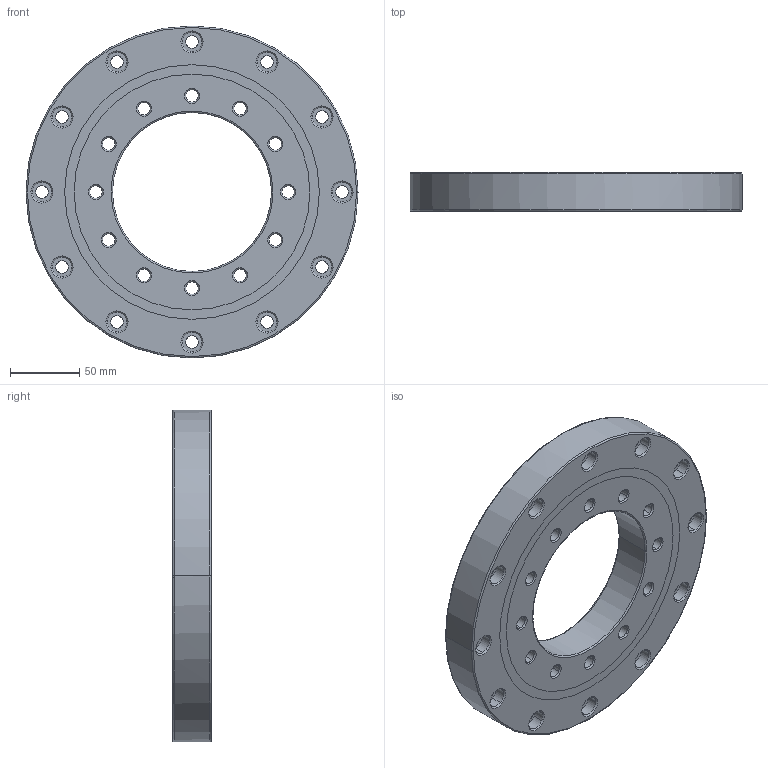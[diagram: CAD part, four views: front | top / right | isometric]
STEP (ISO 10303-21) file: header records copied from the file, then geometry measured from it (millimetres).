
FILE_DESCRIPTION(('no description'),'unknown implementation level');
FILE_NAME('CRBE11528C_62.stp',' ',('HIWIN GmbH'),('CADClick - KiM GmbH - www.kimweb.de'),'unknown preprocess','ACIS','unknown authorization');
FILE_SCHEMA(('automotive_design'));
Length unit declared in the file: millimetre
Products named in the file (4): CRBE11528C_1; CRBE11528C_2; CRBE11528C_3; CRBE11528C
Bounding box: 240 x 28 x 240 mm (x, y, z)
Volume: 811063.9 mm3; surface area: 160867.9 mm2
Topology: 4 solids, 4 shells, 336 faces, 808 edges, 504 vertices
Faces by surface type: cone 176, cylinder 112, plane 32, torus 16
Entity records: 19393 total; most frequent: DIRECTION 2008, STYLED_ITEM 1652, PRESENTATION_STYLE_ASSIGNMENT 1652, CARTESIAN_POINT 1652, COLOUR_RGB 1652, ORIENTED_EDGE 1616, AXIS2_PLACEMENT_3D 860, EDGE_CURVE 808
